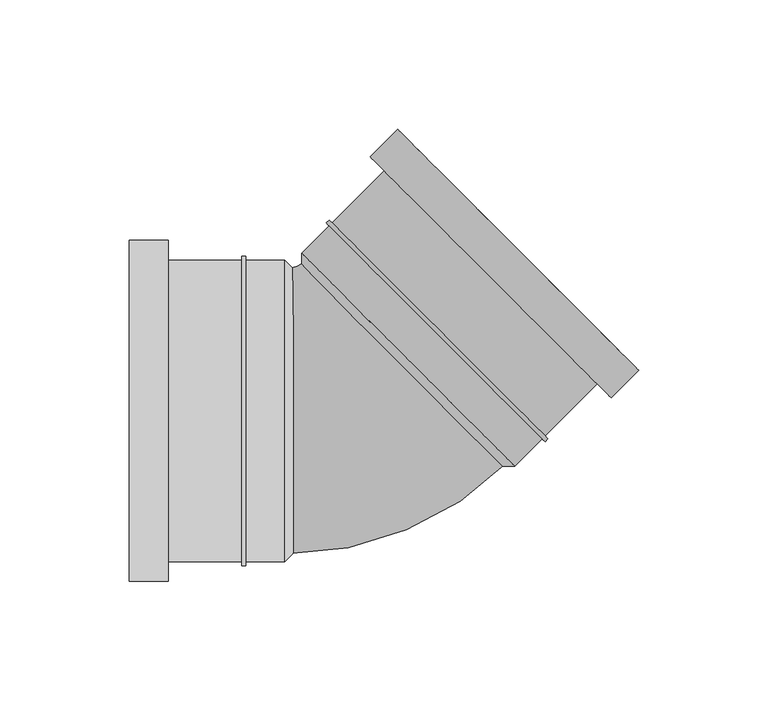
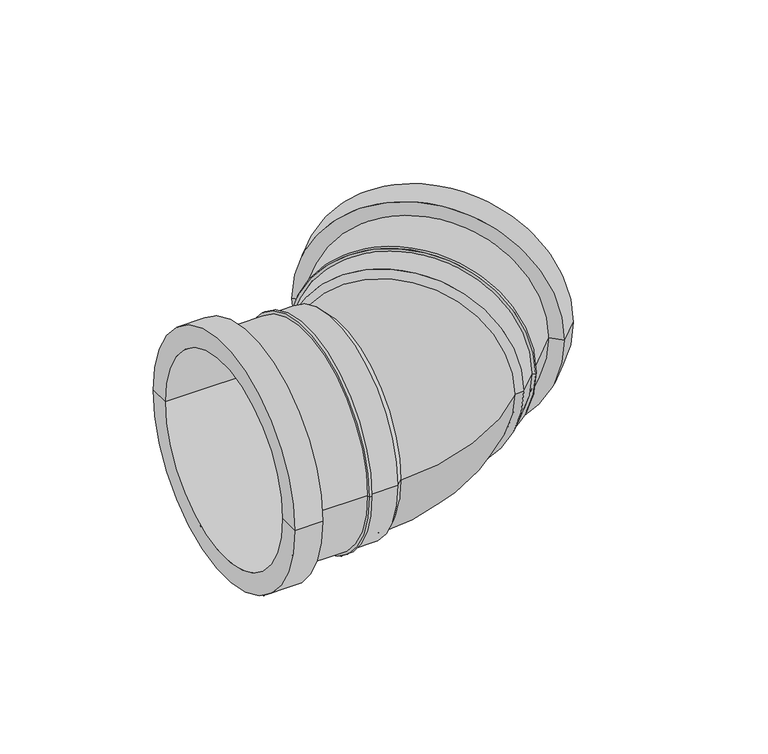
"""IFC4 building model written with IfcOpenShell, lengths in millimetres: pipe fitting geometry, UN_PIF_PP bend S-S_SH_PipeLife : Black, var. DN/OD (max. ø125, nested)."""

from ifc_helpers import new_model, si_unit, point, frame, origin, place, context, project, spatial, polyline, circle_curve, ellipse_curve, trimmed, source, transform, mapped, element, save
from ifc_brep_helpers import plane_surface, cylinder_surface, revolved_surface, advanced_brep


def pipe_fitting_ab1770a2(model_context):
    return source(origin(), model_context, "Body", "AdvancedBrep", [
        advanced_brep(
        [(-24.7, 55.0, 0.0), (-24.7, -55.0, 0.0), (-28.0, -58.3, 0.0), (-28.0, 58.3, 0.0), (-88.2, 66.0, 0.0), (-88.2, -66.0, 0.0), (-88.2, -55.0, 0.0), (-88.2, 55.0, 0.0), (-73.15, 66.0, 0.0), (-73.15, -66.0, 0.0), (-73.15, 58.3, 0.0), (-73.15, -58.3, 0.0), (-44.6, 58.3, 0.0), (-44.6, -58.3, 0.0), (-44.6, 59.85, 0.0), (-44.6, -59.85, 0.0), (-43.05, 59.85, 0.0), (-43.05, -59.85, 0.0), (-43.05, 58.3, 0.0), (-43.05, -58.3, 0.0)],
        [
            (0, 1, circle_curve(frame((-24.7, 0.0, 0.0), z_axis=(-1.0, 0.0, 0.0), x_axis=(0.0, -1.0, 0.0)), 55.0)),
            (1, 2),
            (2, 3, circle_curve(frame((-28.0, 0.0, 0.0), z_axis=(1.0, 0.0, 0.0), x_axis=(0.0, -1.0, 0.0)), 58.3)),
            (3, 0),
            (1, 0, circle_curve(frame((-24.7, 0.0, 0.0), z_axis=(-1.0, 0.0, 0.0), x_axis=(0.0, -1.0, 0.0)), 55.0)),
            (3, 2, circle_curve(frame((-28.0, 0.0, 0.0), z_axis=(1.0, 0.0, 0.0), x_axis=(0.0, -1.0, 0.0)), 58.3)),
            (4, 5, circle_curve(frame((-88.2, 0.0, 0.0), z_axis=(-1.0, 0.0, 0.0), x_axis=(0.0, -1.0, 0.0)), 66.0)),
            (5, 6),
            (6, 7, circle_curve(frame((-88.2, 0.0, 0.0), z_axis=(1.0, 0.0, 0.0), x_axis=(0.0, -1.0, 0.0)), 55.0)),
            (7, 4),
            (5, 4, circle_curve(frame((-88.2, 0.0, 0.0), z_axis=(-1.0, 0.0, 0.0), x_axis=(0.0, -1.0, 0.0)), 66.0)),
            (7, 6, circle_curve(frame((-88.2, 0.0, 0.0), z_axis=(1.0, 0.0, 0.0), x_axis=(0.0, -1.0, 0.0)), 55.0)),
            (8, 9, circle_curve(frame((-73.15, 0.0, 0.0), z_axis=(-1.0, 0.0, 0.0), x_axis=(0.0, -1.0, 0.0)), 66.0)),
            (9, 5),
            (4, 8),
            (9, 8, circle_curve(frame((-73.15, 0.0, 0.0), z_axis=(-1.0, 0.0, 0.0), x_axis=(0.0, -1.0, 0.0)), 66.0)),
            (10, 11, circle_curve(frame((-73.15, 0.0, 0.0), z_axis=(-1.0, 0.0, 0.0), x_axis=(0.0, -1.0, 0.0)), 58.3)),
            (11, 9),
            (8, 10),
            (11, 10, circle_curve(frame((-73.15, 0.0, 0.0), z_axis=(-1.0, 0.0, 0.0), x_axis=(0.0, -1.0, 0.0)), 58.3)),
            (12, 13, circle_curve(frame((-44.6, 0.0, 0.0), z_axis=(-1.0, 0.0, 0.0), x_axis=(0.0, -1.0, 0.0)), 58.3)),
            (13, 11),
            (10, 12),
            (13, 12, circle_curve(frame((-44.6, 0.0, 0.0), z_axis=(-1.0, 0.0, 0.0), x_axis=(0.0, -1.0, 0.0)), 58.3)),
            (14, 15, circle_curve(frame((-44.6, 0.0, 0.0), z_axis=(-1.0, 0.0, 0.0), x_axis=(0.0, -1.0, 0.0)), 59.85)),
            (15, 13),
            (12, 14),
            (15, 14, circle_curve(frame((-44.6, 0.0, 0.0), z_axis=(-1.0, 0.0, 0.0), x_axis=(0.0, -1.0, 0.0)), 59.85)),
            (16, 17, circle_curve(frame((-43.05, 0.0, 0.0), z_axis=(-1.0, 0.0, 0.0), x_axis=(0.0, -1.0, 0.0)), 59.85)),
            (17, 15),
            (14, 16),
            (17, 16, circle_curve(frame((-43.05, 0.0, 0.0), z_axis=(-1.0, 0.0, 0.0), x_axis=(0.0, -1.0, 0.0)), 59.85)),
            (18, 19, circle_curve(frame((-43.05, 0.0, 0.0), z_axis=(-1.0, 0.0, 0.0), x_axis=(0.0, -1.0, 0.0)), 58.3)),
            (19, 17),
            (16, 18),
            (19, 18, circle_curve(frame((-43.05, 0.0, 0.0), z_axis=(-1.0, 0.0, 0.0), x_axis=(0.0, -1.0, 0.0)), 58.3)),
            (2, 19),
            (18, 3),
            (6, 1),
            (0, 7),
        ],
        [
            revolved_surface(polyline([(-28.0, -58.3, 0.0), (-24.7, -55.0, 0.0)]), (-88.2, 0.0, 0.0), (1.0, 0.0, 0.0)),
            plane_surface(frame((-88.2, 0.0, 0.0), z_axis=(-1.0, 0.0, 0.0), x_axis=(0.0, -1.0, 0.0))),
            cylinder_surface(frame((-88.2, 0.0, 0.0), z_axis=(1.0, 0.0, 0.0), x_axis=(0.0, -1.0, 0.0)), 66.0),
            plane_surface(frame((-73.15, 0.0, 0.0), z_axis=(1.0, 0.0, 0.0), x_axis=(0.0, -1.0, 0.0))),
            cylinder_surface(frame((-88.2, 0.0, 0.0), z_axis=(1.0, 0.0, 0.0), x_axis=(0.0, -1.0, 0.0)), 58.3),
            plane_surface(frame((-44.6, 0.0, 0.0), z_axis=(-1.0, 0.0, 0.0), x_axis=(0.0, -1.0, 0.0))),
            cylinder_surface(frame((-88.2, 0.0, 0.0), z_axis=(1.0, 0.0, 0.0), x_axis=(0.0, -1.0, 0.0)), 59.85),
            plane_surface(frame((-43.05, 0.0, 0.0), z_axis=(1.0, 0.0, 0.0), x_axis=(0.0, -1.0, 0.0))),
            revolved_surface(polyline([(-24.700000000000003, -55.0, 0.0), (-88.2, -55.0, 0.0)]), (-88.2, 0.0, 0.0), (1.0, 0.0, 0.0)),
        ],
        [
            (0, [[1, 2, 3, 4]]),
            (0, [[5, -4, 6, -2]]),
            (1, [[7, 8, 9, 10]]),
            (1, [[11, -10, 12, -8]]),
            (2, [[13, 14, -7, 15]]),
            (2, [[16, -15, -11, -14]]),
            (3, [[17, 18, -13, 19]]),
            (3, [[20, -19, -16, -18]]),
            (4, [[21, 22, -17, 23]]),
            (4, [[24, -23, -20, -22]]),
            (5, [[25, 26, -21, 27]]),
            (5, [[28, -27, -24, -26]]),
            (6, [[29, 30, -25, 31]]),
            (6, [[32, -31, -28, -30]]),
            (7, [[33, 34, -29, 35]]),
            (7, [[36, -35, -32, -34]]),
            (4, [[-3, 37, -33, 38]]),
            (4, [[-6, -38, -36, -37]]),
            (8, [[-9, 39, -1, 40]]),
            (8, [[-12, -40, -5, -39]]),
        ],
    ),
        advanced_brep(
        [(56.3564105, -21.4253355, 0.0), (-21.4253355, 56.3564105, 0.0), (-21.4253355, 61.0233152, 0.0), (61.0233152, -21.4253355, 0.0), (109.0358657, 15.6977705, 0.0), (15.6977705, 109.0358657, 0.0), (23.4759451, 101.2576911, 0.0), (101.2576911, 23.4759451, 0.0), (98.3939086, 5.0558135, 0.0), (5.0558135, 98.3939086, 0.0), (92.9491864, 10.5005357, 0.0), (10.5005357, 92.9491864, 0.0), (72.7612878, -9.6873629, 0.0), (-9.6873629, 72.7612878, 0.0), (73.8573033, -10.7833784, 0.0), (-10.7833784, 73.8573033, 0.0), (72.7612878, -11.8793939, 0.0), (-11.8793939, 72.7612878, 0.0), (71.6652723, -10.7833784, 0.0), (-10.7833784, 71.6652723, 0.0)],
        [
            (0, 1, circle_curve(frame((17.4655375, 17.4655375, 0.0), z_axis=(0.7071067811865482, 0.707106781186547, 0.0), x_axis=(-0.707106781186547, 0.7071067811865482, 0.0)), 55.0)),
            (1, 2),
            (2, 3, circle_curve(frame((19.7989899, 19.7989899, 0.0), z_axis=(-0.7071067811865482, -0.707106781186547, 0.0), x_axis=(-0.707106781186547, 0.7071067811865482, 0.0)), 58.3)),
            (3, 0),
            (1, 0, circle_curve(frame((17.4655375, 17.4655375, 0.0), z_axis=(0.7071067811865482, 0.707106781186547, 0.0), x_axis=(-0.707106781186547, 0.7071067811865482, 0.0)), 55.0)),
            (3, 2, circle_curve(frame((19.7989899, 19.7989899, 0.0), z_axis=(-0.7071067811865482, -0.707106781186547, 0.0), x_axis=(-0.707106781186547, 0.7071067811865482, 0.0)), 58.3)),
            (4, 5, circle_curve(frame((62.3668181, 62.3668181, 0.0), z_axis=(0.7071067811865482, 0.707106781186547, 0.0), x_axis=(-0.707106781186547, 0.7071067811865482, 0.0)), 66.0)),
            (5, 6),
            (6, 7, circle_curve(frame((62.3668181, 62.3668181, 0.0), z_axis=(-0.7071067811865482, -0.707106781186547, 0.0), x_axis=(-0.707106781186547, 0.7071067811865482, 0.0)), 55.0)),
            (7, 4),
            (5, 4, circle_curve(frame((62.3668181, 62.3668181, 0.0), z_axis=(0.7071067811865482, 0.707106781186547, 0.0), x_axis=(-0.707106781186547, 0.7071067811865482, 0.0)), 66.0)),
            (7, 6, circle_curve(frame((62.3668181, 62.3668181, 0.0), z_axis=(-0.7071067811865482, -0.707106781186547, 0.0), x_axis=(-0.707106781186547, 0.7071067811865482, 0.0)), 55.0)),
            (8, 9, circle_curve(frame((51.724861, 51.724861, 0.0), z_axis=(0.7071067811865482, 0.707106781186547, 0.0), x_axis=(-0.707106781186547, 0.7071067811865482, 0.0)), 66.0)),
            (9, 5),
            (4, 8),
            (9, 8, circle_curve(frame((51.724861, 51.724861, 0.0), z_axis=(0.7071067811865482, 0.707106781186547, 0.0), x_axis=(-0.707106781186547, 0.7071067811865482, 0.0)), 66.0)),
            (10, 11, circle_curve(frame((51.724861, 51.724861, 0.0), z_axis=(0.7071067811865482, 0.707106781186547, 0.0), x_axis=(-0.707106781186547, 0.7071067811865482, 0.0)), 58.3)),
            (11, 9),
            (8, 10),
            (11, 10, circle_curve(frame((51.724861, 51.724861, 0.0), z_axis=(0.7071067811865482, 0.707106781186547, 0.0), x_axis=(-0.707106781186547, 0.7071067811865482, 0.0)), 58.3)),
            (12, 13, circle_curve(frame((31.5369624, 31.5369624, 0.0), z_axis=(0.7071067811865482, 0.707106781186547, 0.0), x_axis=(-0.707106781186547, 0.7071067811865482, 0.0)), 58.3)),
            (13, 11),
            (10, 12),
            (13, 12, circle_curve(frame((31.5369624, 31.5369624, 0.0), z_axis=(0.7071067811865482, 0.707106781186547, 0.0), x_axis=(-0.707106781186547, 0.7071067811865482, 0.0)), 58.3)),
            (14, 15, circle_curve(frame((31.5369624, 31.5369624, 0.0), z_axis=(0.7071067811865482, 0.707106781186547, 0.0), x_axis=(-0.707106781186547, 0.7071067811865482, 0.0)), 59.85)),
            (15, 13),
            (12, 14),
            (15, 14, circle_curve(frame((31.5369624, 31.5369624, 0.0), z_axis=(0.7071067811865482, 0.707106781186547, 0.0), x_axis=(-0.707106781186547, 0.7071067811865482, 0.0)), 59.85)),
            (16, 17, circle_curve(frame((30.4409469, 30.4409469, 0.0), z_axis=(0.7071067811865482, 0.707106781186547, 0.0), x_axis=(-0.707106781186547, 0.7071067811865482, 0.0)), 59.85)),
            (17, 15),
            (14, 16),
            (17, 16, circle_curve(frame((30.4409469, 30.4409469, 0.0), z_axis=(0.7071067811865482, 0.707106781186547, 0.0), x_axis=(-0.707106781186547, 0.7071067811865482, 0.0)), 59.85)),
            (18, 19, circle_curve(frame((30.4409469, 30.4409469, 0.0), z_axis=(0.7071067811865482, 0.707106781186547, 0.0), x_axis=(-0.707106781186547, 0.7071067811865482, 0.0)), 58.3)),
            (19, 17),
            (16, 18),
            (19, 18, circle_curve(frame((30.4409469, 30.4409469, 0.0), z_axis=(0.7071067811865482, 0.707106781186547, 0.0), x_axis=(-0.707106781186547, 0.7071067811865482, 0.0)), 58.3)),
            (2, 19),
            (18, 3),
            (6, 1),
            (0, 7),
        ],
        [
            revolved_surface(polyline([(-21.4253355, 61.0233152, 0.0), (-21.4253355, 56.3564105, 0.0)]), (62.3668181, 62.3668181, 0.0), (-0.7071067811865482, -0.707106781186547, 0.0)),
            plane_surface(frame((62.3668181, 62.3668181, 0.0), z_axis=(0.7071067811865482, 0.707106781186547, 0.0), x_axis=(-0.707106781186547, 0.7071067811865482, 0.0))),
            cylinder_surface(frame((62.3668181, 62.3668181, 0.0), z_axis=(-0.7071067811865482, -0.707106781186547, 0.0), x_axis=(-0.707106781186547, 0.7071067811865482, 0.0)), 66.0),
            plane_surface(frame((51.724861, 51.724861, 0.0), z_axis=(-0.7071067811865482, -0.707106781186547, 0.0), x_axis=(-0.707106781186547, 0.7071067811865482, 0.0))),
            cylinder_surface(frame((62.3668181, 62.3668181, 0.0), z_axis=(-0.7071067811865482, -0.707106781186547, 0.0), x_axis=(-0.707106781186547, 0.7071067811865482, 0.0)), 58.3),
            plane_surface(frame((31.5369624, 31.5369624, 0.0), z_axis=(0.7071067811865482, 0.707106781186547, 0.0), x_axis=(-0.707106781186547, 0.7071067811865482, 0.0))),
            cylinder_surface(frame((62.3668181, 62.3668181, 0.0), z_axis=(-0.7071067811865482, -0.707106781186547, 0.0), x_axis=(-0.707106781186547, 0.7071067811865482, 0.0)), 59.85),
            plane_surface(frame((30.4409469, 30.4409469, 0.0), z_axis=(-0.7071067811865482, -0.707106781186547, 0.0), x_axis=(-0.707106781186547, 0.7071067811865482, 0.0))),
            revolved_surface(polyline([(-21.42533546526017, 56.356410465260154, 0.0), (23.475945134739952, 101.25769106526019, 0.0)]), (62.3668181, 62.3668181, 0.0), (-0.7071067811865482, -0.707106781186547, 0.0)),
        ],
        [
            (0, [[1, 2, 3, 4]]),
            (0, [[5, -4, 6, -2]]),
            (1, [[7, 8, 9, 10]]),
            (1, [[11, -10, 12, -8]]),
            (2, [[13, 14, -7, 15]]),
            (2, [[16, -15, -11, -14]]),
            (3, [[17, 18, -13, 19]]),
            (3, [[20, -19, -16, -18]]),
            (4, [[21, 22, -17, 23]]),
            (4, [[24, -23, -20, -22]]),
            (5, [[25, 26, -21, 27]]),
            (5, [[28, -27, -24, -26]]),
            (6, [[29, 30, -25, 31]]),
            (6, [[32, -31, -28, -30]]),
            (7, [[33, 34, -29, 35]]),
            (7, [[36, -35, -32, -34]]),
            (4, [[-3, 37, -33, 38]]),
            (4, [[-6, -38, -36, -37]]),
            (8, [[-9, 39, -1, 40]]),
            (8, [[-12, -40, -5, -39]]),
        ],
    ),
        advanced_brep(
        [(-28.0, -55.2, 0.0), (-28.0, 55.2, 0.0), (-27.0, -55.2, 0.0), (-27.0, 55.2, 0.0), (-19.9404112, 58.1241774, 0.0), (58.1241774, -19.9404112, 0.0), (58.8312842, -19.2333044, 0.0), (-19.2333044, 58.8312842, 0.0)],
        [
            (0, 1, circle_curve(frame((-28.0, 0.0, 0.0), z_axis=(-1.0, 0.0, 0.0), x_axis=(0.0, 1.0, 0.0)), 55.2)),
            (1, 0, circle_curve(frame((-28.0, 0.0, 0.0), z_axis=(-1.0, 0.0, 0.0), x_axis=(0.0, 1.0, 0.0)), 55.2)),
            (0, 2),
            (2, 3, circle_curve(frame((-27.0, 0.0, 0.0), z_axis=(-1.0, 0.0, 0.0), x_axis=(0.0, 1.0, 0.0)), 55.2)),
            (3, 1),
            (3, 2, circle_curve(frame((-27.0, 0.0, 0.0), z_axis=(-1.0, 0.0, 0.0), x_axis=(0.0, 1.0, 0.0)), 55.2)),
            (4, 3, circle_curve(frame((-27.0, 65.1837662, 0.0), z_axis=(0.0, 0.0, -1.0), x_axis=(0.0, -1.0, 0.0)), 9.9837662)),
            (2, 5, circle_curve(frame((-27.0, 65.1837662, 0.0), z_axis=(0.0, 0.0, 1.0), x_axis=(0.0, -1.0, 0.0)), 120.3837662)),
            (5, 4, circle_curve(frame((19.0918831, 19.0918831, 0.0), z_axis=(-0.7071067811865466, -0.7071067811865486, 0.0), x_axis=(-0.7071067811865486, 0.7071067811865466, 0.0)), 55.2)),
            (4, 5, circle_curve(frame((19.0918831, 19.0918831, 0.0), z_axis=(-0.7071067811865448, -0.7071067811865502, 0.0), x_axis=(-0.7071067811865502, 0.7071067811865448, 0.0)), 55.2)),
            (6, 7, circle_curve(frame((19.7989899, 19.7989899, 0.0), z_axis=(0.7071067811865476, 0.7071067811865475, 0.0), x_axis=(-0.7071067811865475, 0.7071067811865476, 0.0)), 55.2)),
            (7, 6, circle_curve(frame((19.7989899, 19.7989899, 0.0), z_axis=(0.7071067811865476, 0.7071067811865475, 0.0), x_axis=(-0.7071067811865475, 0.7071067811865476, 0.0)), 55.2)),
            (5, 6),
            (7, 4),
        ],
        [
            plane_surface(frame((-28.0, 0.0, 0.0), z_axis=(-1.0, 0.0, 0.0), x_axis=(0.0, 0.0, 1.0))),
            cylinder_surface(frame((-28.0, 0.0, 0.0), z_axis=(-1.0, 0.0, 0.0), x_axis=(0.0, 1.0, 0.0)), 55.2),
            revolved_surface(trimmed(ellipse_curve(frame((-27.0, 0.0, 0.0), z_axis=(-1.0, 0.0, 0.0), x_axis=(0.0, 1.0, 0.0)), 55.2, 55.2), [point((-27.0, -55.2, 0.0))], [point((-27.0, 55.2, 0.0))], True, "CARTESIAN"), (-27.0, 65.1837662, 0.0), (0.0, 0.0, 1.0)),
            revolved_surface(trimmed(ellipse_curve(frame((-27.0, 0.0, 0.0), z_axis=(-1.0, 0.0, 0.0), x_axis=(0.0, 1.0, 0.0)), 55.2, 55.2), [point((-27.0, 55.2, 0.0))], [point((-27.0, -55.2, 0.0))], True, "CARTESIAN"), (-27.0, 65.1837662, 0.0), (0.0, 0.0, 1.0)),
            plane_surface(frame((19.7989899, 19.7989899, 0.0), z_axis=(0.7071067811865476, 0.7071067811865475, 0.0), x_axis=(0.0, 0.0, 1.0))),
            cylinder_surface(frame((19.0918831, 19.0918831, 0.0), z_axis=(-0.7071067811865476, -0.7071067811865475, 0.0), x_axis=(-0.7071067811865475, 0.7071067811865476, 0.0)), 55.2),
        ],
        [
            (0, [[1, 2]]),
            (1, [[-1, 3, 4, 5]]),
            (1, [[-2, -5, 6, -3]]),
            (2, [[7, -4, 8, 9]]),
            (3, [[-8, -6, -7, 10]]),
            (4, [[11, 12]]),
            (5, [[-9, 13, -12, 14]]),
            (5, [[-10, -14, -11, -13]]),
        ],
    ),
    ])


if __name__ == "__main__":
    model = new_model("IFC4")
    model_context = context("Model", 3, world=origin())
    ifc_project = project(units=[si_unit("LENGTHUNIT", "METRE", prefix="MILLI")], contexts=[model_context])
    site = spatial("IfcSite", under=ifc_project)
    building = spatial("IfcBuilding", under=site)
    placement = place(None, origin())
    pipe_fitting_shape = pipe_fitting_ab1770a2(model_context)
    element("IfcPipeFitting", 1, ObjectType="UN_PIF_PP bend S-S_SH_PipeLife : Black, var. DN/OD (max. ø125, nested)", at=placement, inside=building, context=model_context, shape_type="MappedRepresentation", body=[
        mapped(pipe_fitting_shape, transform((0.0, 0.0, 0.0), x_axis=(1.0, 0.0, 0.0), y_axis=(0.0, 1.0, 0.0), z_axis=(0.0, 0.0, 1.0))),
    ])
    save(model, "model.ifc")
